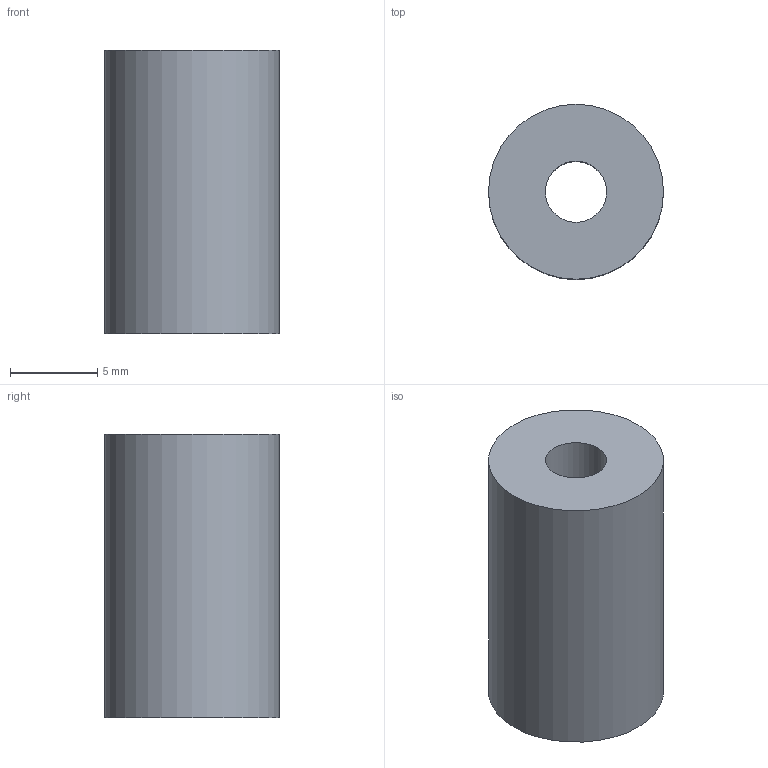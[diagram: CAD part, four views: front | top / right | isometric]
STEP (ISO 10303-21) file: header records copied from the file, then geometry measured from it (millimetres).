
FILE_DESCRIPTION(('Open CASCADE Model'),'2;1');
FILE_NAME('Open CASCADE Shape Model','2026-10-12T22:10:13',('Author'),( 'Open CASCADE'),'Open CASCADE STEP processor 7.9','Open CASCADE 7.9' ,'Unknown');
FILE_SCHEMA(('AUTOMOTIVE_DESIGN { 1 0 10303 214 1 1 1 1 }'));
Length unit declared in the file: millimetre
Products named in the file (1): Open CASCADE STEP translator 7.9 5
Bounding box: 10 x 10 x 16.2 mm (x, y, z)
Volume: 1116.5 mm3; surface area: 824.9 mm2
Topology: 1 solids, 1 shells, 4 faces, 6 edges, 4 vertices
Faces by surface type: cylinder 2, plane 2
Full cylindrical faces by diameter (mm): 3.5 x1, 10 x1
Entity records: 186 total; most frequent: DIRECTION 32, CARTESIAN_POINT 27, ORIENTED_EDGE 12, PCURVE 12, DEFINITIONAL_REPRESENTATION 12, LINE 10, VECTOR 10, AXIS2_PLACEMENT_3D 9
